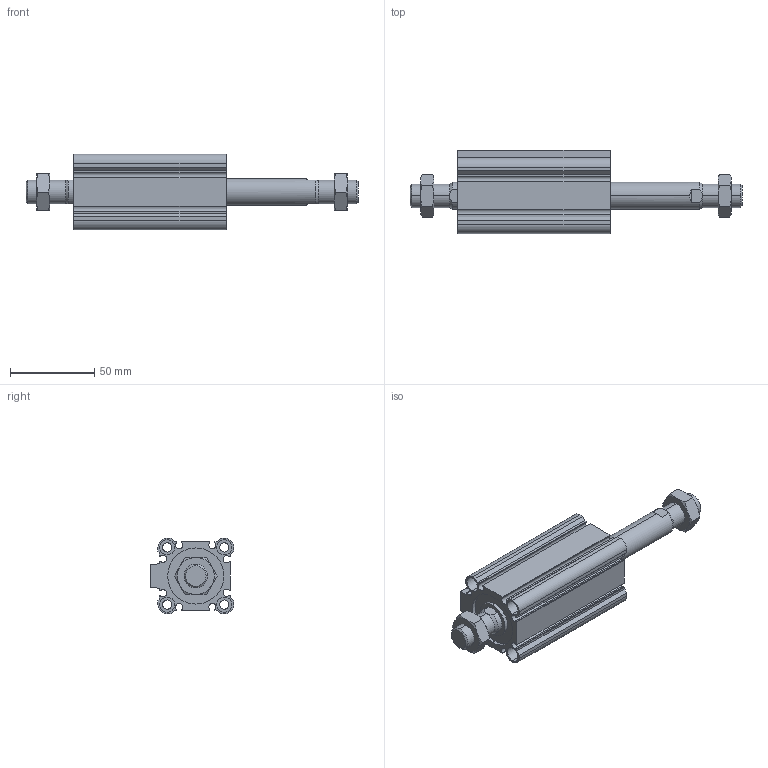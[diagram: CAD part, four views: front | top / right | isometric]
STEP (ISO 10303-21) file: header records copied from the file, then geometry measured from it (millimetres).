
FILE_DESCRIPTION (( 'STEP AP203' ), '1' );
FILE_NAME ('CCMB32-50M-P.STEP', '2020-08-10T11:35:28', ( '' ), ( '' ), 'SwSTEP 2.0', 'SolidWorks 2019', '' );
FILE_SCHEMA (( 'CONFIG_CONTROL_DESIGN' ));
Length unit declared in the file: millimetre
Products named in the file (1): CCMB32-50M-P
Bounding box: 197.5 x 49.5 x 45 mm (x, y, z)
Volume: 139746.2 mm3; surface area: 58026.1 mm2
Topology: 4 solids, 4 shells, 216 faces, 522 edges, 332 vertices
Faces by surface type: plane 94, cylinder 78, cone 44
Entity records: 7009 total; most frequent: CARTESIAN_POINT 1819, DIRECTION 1088, ORIENTED_EDGE 1044, EDGE_CURVE 522, AXIS2_PLACEMENT_3D 413, VERTEX_POINT 332, LINE 262, VECTOR 262
